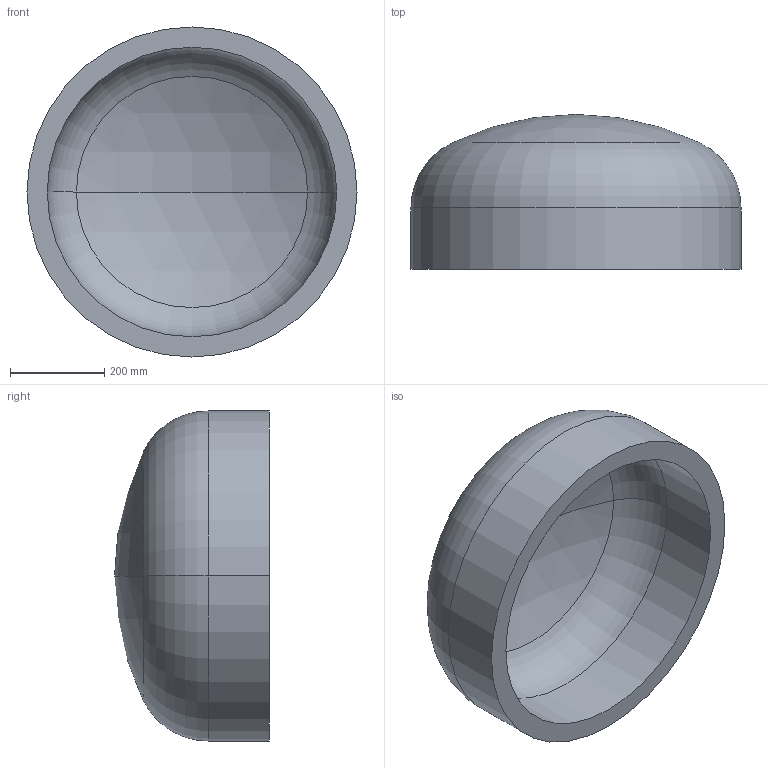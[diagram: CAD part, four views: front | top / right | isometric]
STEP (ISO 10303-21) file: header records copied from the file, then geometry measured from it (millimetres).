
FILE_DESCRIPTION (( 'STEP AP203' ), '1' );
FILE_NAME ('DIN 28013 Korbbogenform_-_Boden DIN 28013 - 700 x 130 - I - s=43.step', '2016-07-01T08:07:59', ( '' ), ( '' ), 'SwSTEP 2.0', 'SolidWorks 2013', '' );
FILE_SCHEMA (( 'CONFIG_CONTROL_DESIGN' ));
Length unit declared in the file: millimetre
Products named in the file (1): DIN 28013 Korbbogenform_-_Boden DIN 28013 - 700 x 130 - I - s=43
Bounding box: 700 x 328.41 x 700 mm (x, y, z)
Volume: 32822254.6 mm3; surface area: 1619241.9 mm2
Topology: 1 solids, 1 shells, 13 faces, 24 edges, 14 vertices
Faces by surface type: torus 4, cylinder 4, sphere 4, plane 1
Entity records: 407 total; most frequent: DIRECTION 72, CARTESIAN_POINT 52, ORIENTED_EDGE 48, AXIS2_PLACEMENT_3D 34, EDGE_CURVE 24, CIRCLE 20, EDGE_LOOP 14, VERTEX_POINT 14
